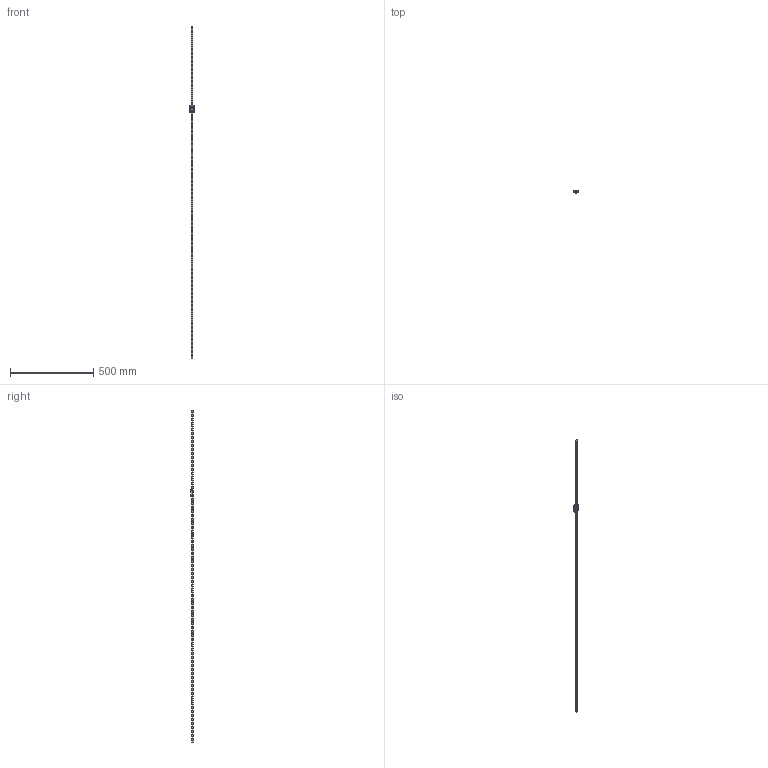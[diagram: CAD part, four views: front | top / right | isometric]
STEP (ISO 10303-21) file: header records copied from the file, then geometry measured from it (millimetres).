
FILE_DESCRIPTION((''),'2;1');
FILE_NAME('BMHS12-LU1Z0-2000-D0_1_ASM_1_ASM','2020-11-25T11:08:29',('TWVS2025'),(''),'CREO PARAMETRIC BY PTC INC, 2018420','CREO PARAMETRIC BY PTC INC, 2018420','');
FILE_SCHEMA(('CONFIG_CONTROL_DESIGN'));
Length unit declared in the file: millimetre
Products named in the file (3): IR-BMH12-2000_1_RNM; BC-BMHC12-LUS-Z0_1; BMHS12-LU1Z0-2000-D0_1_ASM_1_ASM
Assembly tree (2 placements, depth 2):
  BMHS12-LU1Z0-2000-D0_1_ASM_1_ASM
    IR-BMH12-2000_1_RNM
    BC-BMHC12-LUS-Z0_1
Bounding box: 27 x 13 x 2000 mm (x, y, z)
Volume: 200230.3 mm3; surface area: 97913.2 mm2
Topology: 2 solids, 6 shells, 1066 faces, 2957 edges, 1885 vertices
Faces by surface type: cylinder 494, plane 302, cone 176, sphere 78, torus 16
Entity records: 35500 total; most frequent: CARTESIAN_POINT 7272, DIRECTION 6186, ORIENTED_EDGE 5782, EDGE_CURVE 2891, AXIS2_PLACEMENT_3D 2473, VERTEX_POINT 1885, CIRCLE 1402, EDGE_LOOP 1330
